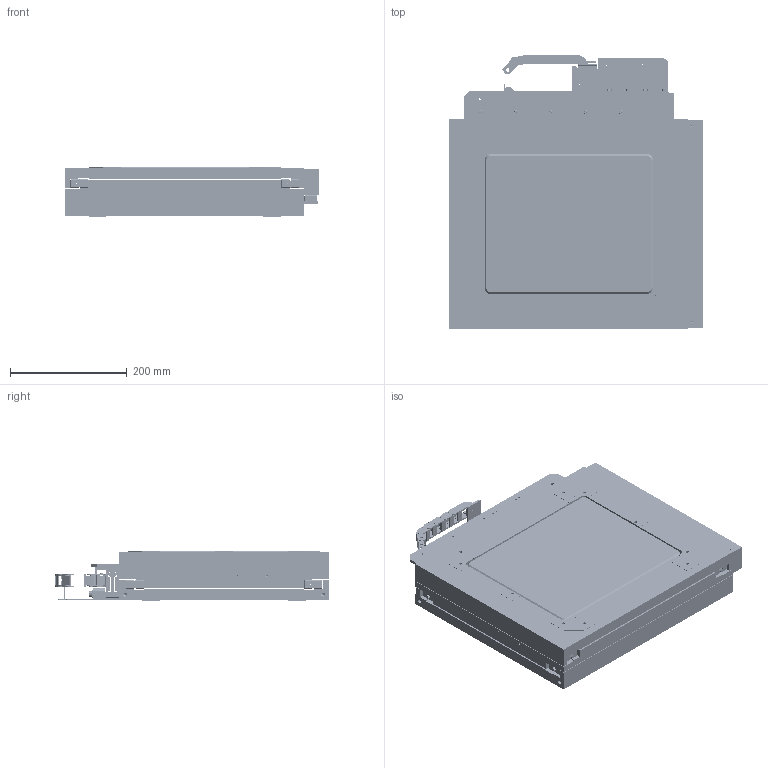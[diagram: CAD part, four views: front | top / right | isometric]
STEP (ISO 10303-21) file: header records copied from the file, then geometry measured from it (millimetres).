
FILE_DESCRIPTION(/* description */ (''),/* implementation_level */ '2;1');
FILE_NAME(/* name */ 'H:\Inventor\Katalog\3D-CAD-Modelle\STP neu\KT8-NLLx-CAD.stp',/* time_stamp */ '2024-01-17T14:47:16+01:00',/* author */ ('KON3'),/* organization */ (''),/* preprocessor_version */ 'ST-DEVELOPER v18',/* originating_system */ 'Autodesk Inventor 2020',/* authorisation */ '');
FILE_SCHEMA (('AUTOMOTIVE_DESIGN { 1 0 10303 214 3 1 1 }'));
Products named in the file (5): KT8-NLMx-CAD; KT8-NLMx_unten; KT8-NLMx_mitte; KT8-NLMx_oben; KT8.44
Assembly tree (4 placements, depth 2):
  KT8-NLMx-CAD
    KT8-NLMx_unten
    KT8-NLMx_mitte
    KT8-NLMx_oben
    KT8.44
Bounding box: 435 x 470 x 85 mm (x, y, z)
Volume: 10562900.5 mm3; surface area: 1809125 mm2
Topology: 126 solids, 126 shells, 4990 faces, 13283 edges, 8997 vertices
Faces by surface type: plane 3208, cylinder 1148, cone 392, bspline 140, torus 102
Full cylindrical faces by diameter (mm): 1 x60, 1.5 x2, 2.013 x6, 2.156 x4, 2.459 x21, 2.5 x16, 2.9 x4, 3 x4, 3.2 x20, 3.242 x14, 3.3 x38, 3.4 x10, 4 x62, 4.134 x45, 4.5 x65, 4.917 x76, 5 x4, 5.5 x4, 5.8 x4, 6 x52, 6.5 x22, 6.647 x4, 7 x45, 8 x25, 9.5 x76, 10 x20, 81 x1
Entity records: 163772 total; most frequent: CARTESIAN_POINT 30804, DIRECTION 26358, ORIENTED_EDGE 26276, EDGE_CURVE 13138, VERTEX_POINT 8997, AXIS2_PLACEMENT_3D 8846, LINE 8666, VECTOR 8666
